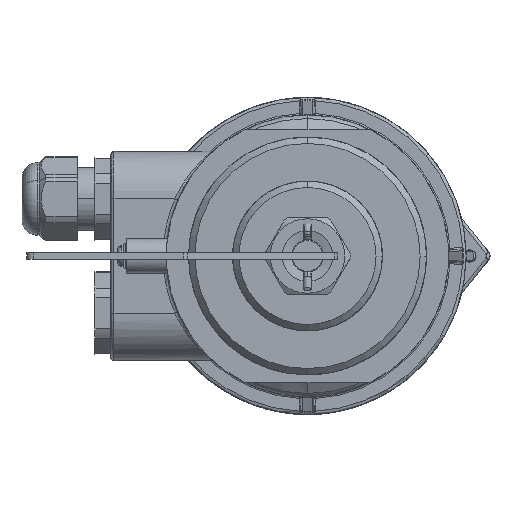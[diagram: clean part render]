
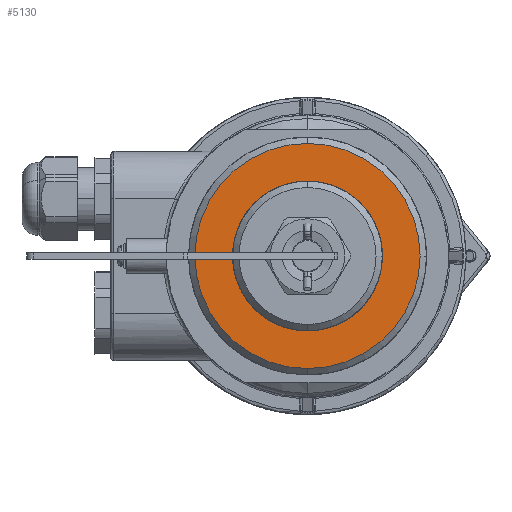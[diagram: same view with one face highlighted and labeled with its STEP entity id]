
A CAD part, front view. The second image highlights one B-rep face of the part: STEP entity #5130.
In plain terms, the highlighted planar face has unit normal (0, -1, 0).
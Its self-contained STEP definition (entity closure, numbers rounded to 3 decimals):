
#325 = EDGE_LOOP ( 'NONE', ( #37476, #41518 ) ) ;
#623 = VERTEX_POINT ( 'NONE', #21217 ) ;
#957 = EDGE_LOOP ( 'NONE', ( #9966, #15347 ) ) ;
#2588 = PLANE ( 'NONE',  #23867 ) ;
#4083 = CARTESIAN_POINT ( 'NONE',  ( 0., 97.5, 0. ) ) ;
#4954 = CARTESIAN_POINT ( 'NONE',  ( -10.427, 97.5, -21.172 ) ) ;
#5130 = ADVANCED_FACE ( 'NONE', ( #18500, #31329 ), #2588, .F. ) ;
#6128 = CARTESIAN_POINT ( 'NONE',  ( -22.345, 97.5, -7.593 ) ) ;
#7866 = CARTESIAN_POINT ( 'NONE',  ( 0., 97.5, -35.5 ) ) ;
#8175 = CIRCLE ( 'NONE', #31612, 23.6 ) ;
#8493 = DIRECTION ( 'NONE',  ( 0., -1., 0. ) ) ;
#8673 = DIRECTION ( 'NONE',  ( 0., 1., 0. ) ) ;
#9966 = ORIENTED_EDGE ( 'NONE', *, *, #18181, .T. ) ;
#11259 = CARTESIAN_POINT ( 'NONE',  ( 0., 97.5, 0. ) ) ;
#11470 = AXIS2_PLACEMENT_3D ( 'NONE', #11259, #24027, #36846 ) ;
#15347 = ORIENTED_EDGE ( 'NONE', *, *, #15566, .T. ) ;
#15370 = CARTESIAN_POINT ( 'NONE',  ( 37.5, 97.5, 0. ) ) ;
#15566 = EDGE_CURVE ( 'NONE', #33494, #623, #29552, .T. ) ;
#16385 = VERTEX_POINT ( 'NONE', #6128 ) ;
#16853 = DIRECTION ( 'NONE',  ( 0., 1., 0. ) ) ;
#17434 = CIRCLE ( 'NONE', #40871, 23.6 ) ;
#17591 = CIRCLE ( 'NONE', #41033, 35.5 ) ;
#18181 = EDGE_CURVE ( 'NONE', #623, #33494, #17591, .T. ) ;
#18500 = FACE_OUTER_BOUND ( 'NONE', #957, .T. ) ;
#19441 = EDGE_CURVE ( 'NONE', #16385, #34981, #8175, .T. ) ;
#21217 = CARTESIAN_POINT ( 'NONE',  ( 0., 97.5, 35.5 ) ) ;
#21263 = DIRECTION ( 'NONE',  ( 0., 0., 1. ) ) ;
#21448 = DIRECTION ( 'NONE',  ( 0., 0., 1. ) ) ;
#22049 = EDGE_CURVE ( 'NONE', #34981, #16385, #17434, .T. ) ;
#23867 = AXIS2_PLACEMENT_3D ( 'NONE', #15370, #28162, #40958 ) ;
#24027 = DIRECTION ( 'NONE',  ( 0., -1., 0. ) ) ;
#27756 = CARTESIAN_POINT ( 'NONE',  ( 0., 97.5, 0. ) ) ;
#28162 = DIRECTION ( 'NONE',  ( 0., 1., 0. ) ) ;
#29552 = CIRCLE ( 'NONE', #11470, 35.5 ) ;
#29659 = DIRECTION ( 'NONE',  ( 0., 0., 1. ) ) ;
#31329 = FACE_BOUND ( 'NONE', #325, .T. ) ;
#31612 = AXIS2_PLACEMENT_3D ( 'NONE', #4083, #16853, #29659 ) ;
#33494 = VERTEX_POINT ( 'NONE', #7866 ) ;
#34981 = VERTEX_POINT ( 'NONE', #4954 ) ;
#36846 = DIRECTION ( 'NONE',  ( 0., 0., 1. ) ) ;
#37228 = CARTESIAN_POINT ( 'NONE',  ( 0., 97.5, 0. ) ) ;
#37476 = ORIENTED_EDGE ( 'NONE', *, *, #22049, .T. ) ;
#40871 = AXIS2_PLACEMENT_3D ( 'NONE', #27756, #8673, #21448 ) ;
#40958 = DIRECTION ( 'NONE',  ( 0., 0., 1. ) ) ;
#41033 = AXIS2_PLACEMENT_3D ( 'NONE', #37228, #8493, #21263 ) ;
#41518 = ORIENTED_EDGE ( 'NONE', *, *, #19441, .T. ) ;
